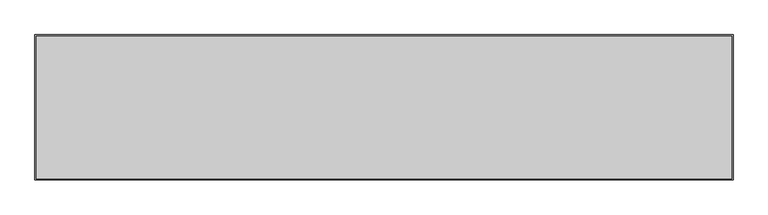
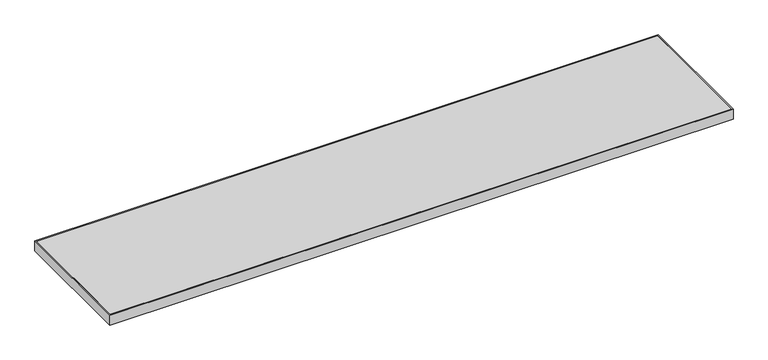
"""IFC4 building model written with IfcOpenShell, lengths in millimetres: furniture geometry, Steelcase - Universal Storage - Square Edge Top - Flush Front - Laminate : Common Top - 15D x 72W."""

from ifc_helpers import new_model, si_unit, frame, origin, place, context, project, spatial, polyline, outline, extrude, source, transform, mapped, element, save


def furniture_3db4f91c(model_context):
    return source(origin(), model_context, "Body", "SweptSolid", [
        extrude(outline(polyline([(1825.7520001, -3.0479999), (1825.7520001, -377.9520001), (3.0479999, -377.9520001), (3.0479999, -3.0479999), (1825.7520001, -3.0479999)])), frame((0.0, 0.0, 680.72), z_axis=(0.0, 0.0, 1.0), x_axis=(1.0, 0.0, 0.0)), (0.0, 0.0, 1.0), 30.48),
        extrude(outline(polyline([(1828.8, 0.0), (1828.8, -381.0), (0.0, -381.0), (0.0, 0.0), (1828.8, 0.0)]), holes=[polyline([(1825.7520001, -3.0479999), (3.0479999, -3.0479999), (3.0479999, -377.9520001), (1825.7520001, -377.9520001), (1825.7520001, -3.0479999)])]), frame((0.0, 0.0, 680.72), z_axis=(0.0, 0.0, 1.0), x_axis=(1.0, 0.0, 0.0)), (0.0, 0.0, 1.0), 30.48),
    ])


if __name__ == "__main__":
    model = new_model("IFC4")
    model_context = context("Model", 3, world=origin())
    ifc_project = project(units=[si_unit("LENGTHUNIT", "METRE", prefix="MILLI")], contexts=[model_context])
    site = spatial("IfcSite", under=ifc_project)
    building = spatial("IfcBuilding", under=site)
    placement = place(None, origin())
    furniture_shape = furniture_3db4f91c(model_context)
    element("IfcFurniture", 1, ObjectType="Steelcase - Universal Storage - Square Edge Top - Flush Front - Laminate : Common Top - 15D x 72W", at=placement, inside=building, context=model_context, shape_type="MappedRepresentation", body=[
        mapped(furniture_shape, transform((0.0, 0.0, 0.0), x_axis=(1.0, 0.0, 0.0), y_axis=(0.0, 1.0, 0.0), z_axis=(0.0, 0.0, 1.0))),
    ])
    save(model, "model.ifc")
